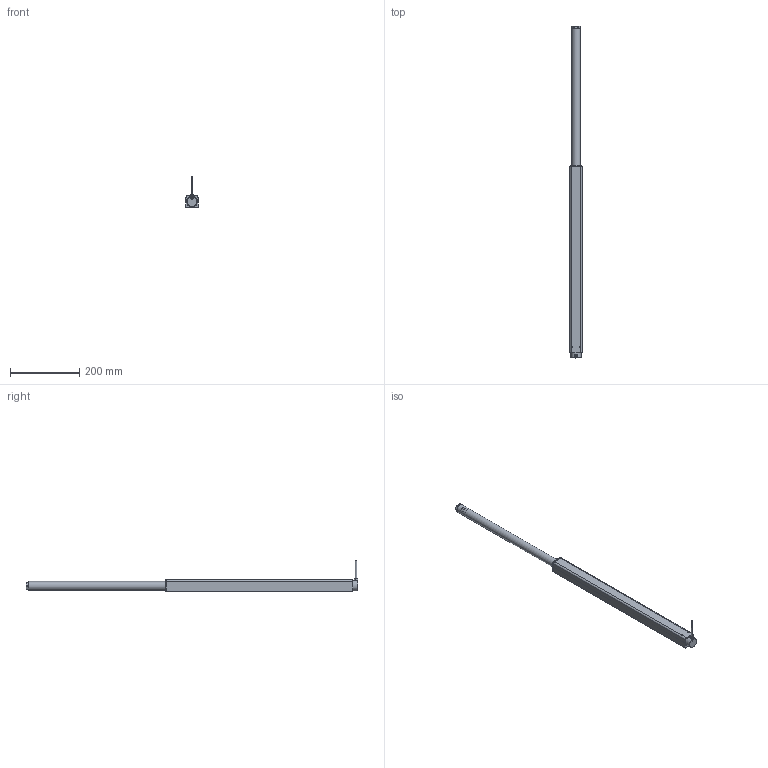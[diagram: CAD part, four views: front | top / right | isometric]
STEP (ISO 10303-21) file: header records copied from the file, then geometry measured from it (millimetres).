
FILE_DESCRIPTION(/* description */ ('Unknown'),/* implementation_level */ '2;1');
FILE_NAME(/* name */ '106.20184 Lineareinheit LA 1840 R_ausgefahren',/* time_stamp */ '2017-10-06T10:08:28+02:00',/* author */ ('Unknown'),/* organization */ ('Unknown'),/* preprocessor_version */ 'ST-DEVELOPER v16.7',/* originating_system */ 'DEX',/* authorisation */ $);
FILE_SCHEMA (('AUTOMOTIVE_DESIGN {1 0 10303 214 3 1 1}'));
Products named in the file (11): 106.20184; 119.00004; 142.00014; 142.00021; 125.00021; 115.00008; 125.00062; 122.00018; 125.00051; 123.00004; 113.00002_70mm
Assembly tree (11 placements, depth 2):
  106.20184
    119.00004
    142.00014  x2
    142.00021
    125.00021
    115.00008
    125.00062
    122.00018
    125.00051
    123.00004
    113.00002_70mm
Bounding box: 35 x 959 x 91.75 mm (x, y, z)
Volume: 386510.5 mm3; surface area: 249172.5 mm2
Topology: 10 solids, 10 shells, 810 faces, 1896 edges, 1132 vertices
Faces by surface type: cylinder 280, bspline 224, plane 214, cone 50, torus 29, sphere 13
Full cylindrical faces by diameter (mm): 2.2 x1, 3.5 x2, 4 x7, 4.1 x1, 4.134 x4, 4.2 x1, 6.647 x1, 6.917 x2, 8 x2, 8.376 x1, 14.4 x1, 17.3 x1, 17.9 x2, 19 x2, 20.8 x3, 21 x1, 25 x1, 29.5 x2, 30.63 x1
Entity records: 76151 total; most frequent: CARTESIAN_POINT 59516, ORIENTED_EDGE 3508, DIRECTION 2671, EDGE_CURVE 1754, VERTEX_POINT 1077, AXIS2_PLACEMENT_3D 1047, FACE_BOUND 921, EDGE_LOOP 919
